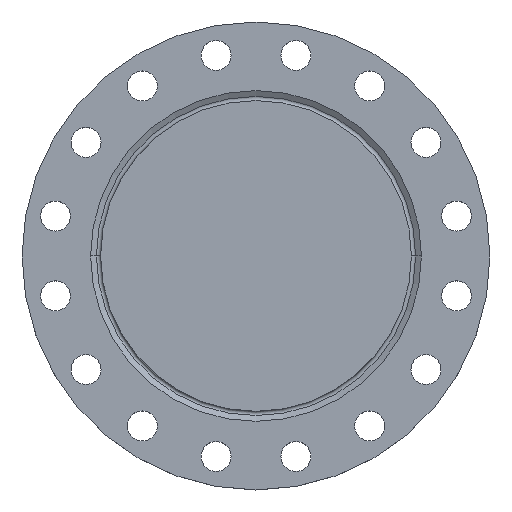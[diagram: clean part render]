
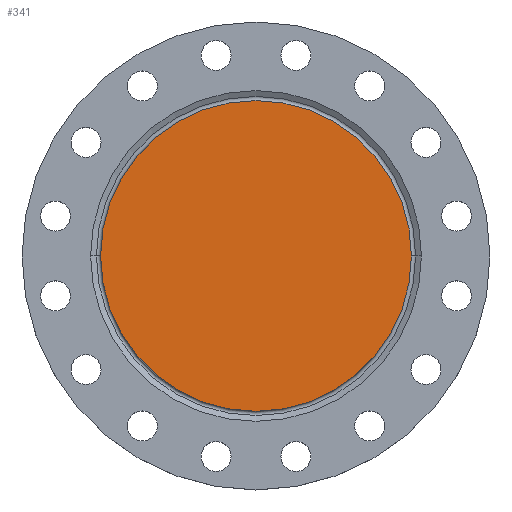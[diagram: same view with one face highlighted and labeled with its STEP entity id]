
A CAD part, top view. The second image highlights one B-rep face of the part: STEP entity #341.
In plain terms, the highlighted planar face has unit normal (0, 0, 1).
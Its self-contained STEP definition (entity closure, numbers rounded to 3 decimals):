
#11 = EDGE_LOOP ( 'NONE', ( #717, #455 ) ) ;
#61 = CARTESIAN_POINT ( 'NONE',  ( 171., 0., 0. ) ) ;
#210 = EDGE_CURVE ( 'NONE', #833, #745, #708, .T. ) ;
#341 = ADVANCED_FACE ( 'NONE', ( #1154 ), #616, .T. ) ;
#449 = AXIS2_PLACEMENT_3D ( 'NONE', #1359, #874, #826 ) ;
#455 = ORIENTED_EDGE ( 'NONE', *, *, #210, .F. ) ;
#490 = DIRECTION ( 'NONE',  ( -1., 0., 0. ) ) ;
#542 = CARTESIAN_POINT ( 'NONE',  ( 0., 0., 0. ) ) ;
#616 = PLANE ( 'NONE',  #449 ) ;
#708 = CIRCLE ( 'NONE', #900, 171. ) ;
#717 = ORIENTED_EDGE ( 'NONE', *, *, #1500, .F. ) ;
#718 = DIRECTION ( 'NONE',  ( 0., 0., -1. ) ) ;
#745 = VERTEX_POINT ( 'NONE', #1683 ) ;
#826 = DIRECTION ( 'NONE',  ( 1., 0., 0. ) ) ;
#833 = VERTEX_POINT ( 'NONE', #61 ) ;
#874 = DIRECTION ( 'NONE',  ( 0., 0., 1. ) ) ;
#900 = AXIS2_PLACEMENT_3D ( 'NONE', #542, #1079, #490 ) ;
#1079 = DIRECTION ( 'NONE',  ( 0., 0., -1. ) ) ;
#1154 = FACE_OUTER_BOUND ( 'NONE', #11, .T. ) ;
#1191 = AXIS2_PLACEMENT_3D ( 'NONE', #1672, #718, #1680 ) ;
#1359 = CARTESIAN_POINT ( 'NONE',  ( 0., 0., 0. ) ) ;
#1420 = CIRCLE ( 'NONE', #1191, 171. ) ;
#1500 = EDGE_CURVE ( 'NONE', #745, #833, #1420, .T. ) ;
#1672 = CARTESIAN_POINT ( 'NONE',  ( 0., 0., 0. ) ) ;
#1680 = DIRECTION ( 'NONE',  ( -1., 0., 0. ) ) ;
#1683 = CARTESIAN_POINT ( 'NONE',  ( -171., 0., 0. ) ) ;
